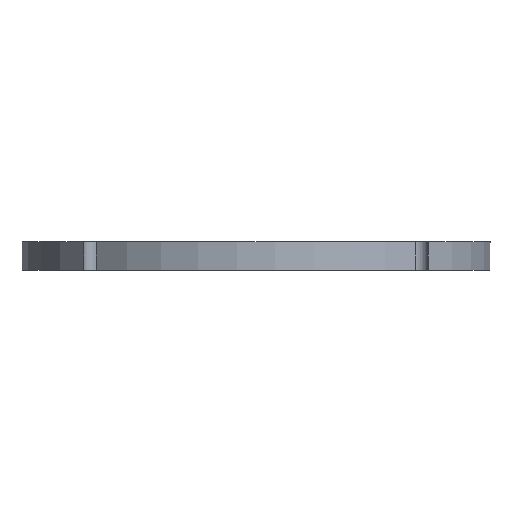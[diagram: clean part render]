
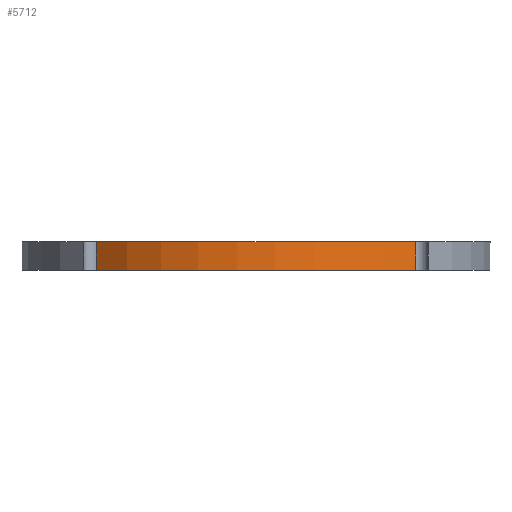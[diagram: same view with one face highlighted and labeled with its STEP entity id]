
A CAD part, front view. The second image highlights one B-rep face of the part: STEP entity #5712.
In plain terms, the highlighted cylindrical face has radius 33 mm (diameter 66 mm), a partial arc.
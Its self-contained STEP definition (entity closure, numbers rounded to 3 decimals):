
#71 = PLANE('',#72);
#72 = AXIS2_PLACEMENT_3D('',#73,#74,#75);
#73 = CARTESIAN_POINT('',(0.,0.,0.));
#74 = DIRECTION('',(0.,0.,1.));
#75 = DIRECTION('',(1.,0.,-0.));
#124 = PLANE('',#125);
#125 = AXIS2_PLACEMENT_3D('',#126,#127,#128);
#126 = CARTESIAN_POINT('',(0.,0.,4.));
#127 = DIRECTION('',(0.,0.,1.));
#128 = DIRECTION('',(1.,0.,-0.));
#283 = VERTEX_POINT('',#284);
#284 = CARTESIAN_POINT('',(-22.421,-24.214,4.));
#303 = CYLINDRICAL_SURFACE('',#304,1.6);
#304 = AXIS2_PLACEMENT_3D('',#305,#306,#307);
#305 = CARTESIAN_POINT('',(-22.627,-22.627,-1.));
#306 = DIRECTION('',(0.,0.,1.));
#307 = DIRECTION('',(1.,0.,-0.));
#315 = EDGE_CURVE('',#316,#283,#318,.T.);
#316 = VERTEX_POINT('',#317);
#317 = CARTESIAN_POINT('',(22.421,-24.214,4.));
#318 = SURFACE_CURVE('',#319,(#324,#335),.PCURVE_S1.);
#319 = CIRCLE('',#320,33.);
#320 = AXIS2_PLACEMENT_3D('',#321,#322,#323);
#321 = CARTESIAN_POINT('',(0.,0.,4.));
#322 = DIRECTION('',(0.,0.,-1.));
#323 = DIRECTION('',(0.734,0.679,0.));
#324 = PCURVE('',#124,#325);
#325 = DEFINITIONAL_REPRESENTATION('',(#326),#334);
#326 = ( BOUNDED_CURVE() B_SPLINE_CURVE(2,(#327,#328,#329,#330,#331,#332
,#333),.UNSPECIFIED.,.T.,.F.) B_SPLINE_CURVE_WITH_KNOTS((1,2,2,2,2,1),(
    -2.094,0.,2.094,4.189,6.283,
8.378),.UNSPECIFIED.) CURVE() GEOMETRIC_REPRESENTATION_ITEM() 
RATIONAL_B_SPLINE_CURVE((1.,0.5,1.,0.5,1.,0.5,1.)) REPRESENTATION_ITEM(
  '') );
#327 = CARTESIAN_POINT('',(24.214,22.421));
#328 = CARTESIAN_POINT('',(63.048,-19.519));
#329 = CARTESIAN_POINT('',(7.31,-32.18));
#330 = CARTESIAN_POINT('',(-48.428,-44.841));
#331 = CARTESIAN_POINT('',(-31.524,9.76));
#332 = CARTESIAN_POINT('',(-14.62,64.36));
#333 = CARTESIAN_POINT('',(24.214,22.421));
#334 = ( GEOMETRIC_REPRESENTATION_CONTEXT(2) 
PARAMETRIC_REPRESENTATION_CONTEXT() REPRESENTATION_CONTEXT('2D SPACE',''
  ) );
#335 = PCURVE('',#336,#341);
#336 = CYLINDRICAL_SURFACE('',#337,33.);
#337 = AXIS2_PLACEMENT_3D('',#338,#339,#340);
#338 = CARTESIAN_POINT('',(0.,0.,0.));
#339 = DIRECTION('',(0.,0.,1.));
#340 = DIRECTION('',(1.,0.,-0.));
#341 = DEFINITIONAL_REPRESENTATION('',(#342),#346);
#342 = LINE('',#343,#344);
#343 = CARTESIAN_POINT('',(7.03,4.));
#344 = VECTOR('',#345,1.);
#345 = DIRECTION('',(-1.,-0.));
#346 = ( GEOMETRIC_REPRESENTATION_CONTEXT(2) 
PARAMETRIC_REPRESENTATION_CONTEXT() REPRESENTATION_CONTEXT('2D SPACE',''
  ) );
#365 = CYLINDRICAL_SURFACE('',#366,1.6);
#366 = AXIS2_PLACEMENT_3D('',#367,#368,#369);
#367 = CARTESIAN_POINT('',(22.627,-22.627,-1.));
#368 = DIRECTION('',(0.,0.,1.));
#369 = DIRECTION('',(1.,0.,-0.));
#5539 = VERTEX_POINT('',#5540);
#5540 = CARTESIAN_POINT('',(-22.421,-24.214,0.));
#5562 = EDGE_CURVE('',#5539,#5563,#5565,.T.);
#5563 = VERTEX_POINT('',#5564);
#5564 = CARTESIAN_POINT('',(22.421,-24.214,0.));
#5565 = SURFACE_CURVE('',#5566,(#5571,#5578),.PCURVE_S1.);
#5566 = CIRCLE('',#5567,33.);
#5567 = AXIS2_PLACEMENT_3D('',#5568,#5569,#5570);
#5568 = CARTESIAN_POINT('',(0.,0.,0.));
#5569 = DIRECTION('',(0.,-0.,1.));
#5570 = DIRECTION('',(0.679,0.734,0.));
#5571 = PCURVE('',#71,#5572);
#5572 = DEFINITIONAL_REPRESENTATION('',(#5573),#5577);
#5573 = CIRCLE('',#5574,33.);
#5574 = AXIS2_PLACEMENT_2D('',#5575,#5576);
#5575 = CARTESIAN_POINT('',(0.,0.));
#5576 = DIRECTION('',(0.679,0.734));
#5577 = ( GEOMETRIC_REPRESENTATION_CONTEXT(2) 
PARAMETRIC_REPRESENTATION_CONTEXT() REPRESENTATION_CONTEXT('2D SPACE',''
  ) );
#5578 = PCURVE('',#336,#5579);
#5579 = DEFINITIONAL_REPRESENTATION('',(#5580),#5584);
#5580 = LINE('',#5581,#5582);
#5581 = CARTESIAN_POINT('',(0.824,0.));
#5582 = VECTOR('',#5583,1.);
#5583 = DIRECTION('',(1.,0.));
#5584 = ( GEOMETRIC_REPRESENTATION_CONTEXT(2) 
PARAMETRIC_REPRESENTATION_CONTEXT() REPRESENTATION_CONTEXT('2D SPACE',''
  ) );
#5693 = EDGE_CURVE('',#5563,#316,#5694,.T.);
#5694 = SURFACE_CURVE('',#5695,(#5699,#5705),.PCURVE_S1.);
#5695 = LINE('',#5696,#5697);
#5696 = CARTESIAN_POINT('',(22.421,-24.214,0.));
#5697 = VECTOR('',#5698,1.);
#5698 = DIRECTION('',(0.,0.,1.));
#5699 = PCURVE('',#365,#5700);
#5700 = DEFINITIONAL_REPRESENTATION('',(#5701),#5704);
#5701 = B_SPLINE_CURVE_WITH_KNOTS('',1,(#5702,#5703),.UNSPECIFIED.,.F.,
  .F.,(2,2),(0.,4.),.PIECEWISE_BEZIER_KNOTS.);
#5702 = CARTESIAN_POINT('',(4.583,1.));
#5703 = CARTESIAN_POINT('',(4.583,5.));
#5704 = ( GEOMETRIC_REPRESENTATION_CONTEXT(2) 
PARAMETRIC_REPRESENTATION_CONTEXT() REPRESENTATION_CONTEXT('2D SPACE',''
  ) );
#5705 = PCURVE('',#336,#5706);
#5706 = DEFINITIONAL_REPRESENTATION('',(#5707),#5710);
#5707 = B_SPLINE_CURVE_WITH_KNOTS('',1,(#5708,#5709),.UNSPECIFIED.,.F.,
  .F.,(2,2),(0.,4.),.PIECEWISE_BEZIER_KNOTS.);
#5708 = CARTESIAN_POINT('',(5.459,0.));
#5709 = CARTESIAN_POINT('',(5.459,4.));
#5710 = ( GEOMETRIC_REPRESENTATION_CONTEXT(2) 
PARAMETRIC_REPRESENTATION_CONTEXT() REPRESENTATION_CONTEXT('2D SPACE',''
  ) );
#5712 = ADVANCED_FACE('',(#5713),#336,.T.);
#5713 = FACE_BOUND('',#5714,.T.);
#5714 = EDGE_LOOP('',(#5715,#5734,#5735,#5736));
#5715 = ORIENTED_EDGE('',*,*,#5716,.F.);
#5716 = EDGE_CURVE('',#5539,#283,#5717,.T.);
#5717 = SURFACE_CURVE('',#5718,(#5722,#5728),.PCURVE_S1.);
#5718 = LINE('',#5719,#5720);
#5719 = CARTESIAN_POINT('',(-22.421,-24.214,0.));
#5720 = VECTOR('',#5721,1.);
#5721 = DIRECTION('',(0.,0.,1.));
#5722 = PCURVE('',#336,#5723);
#5723 = DEFINITIONAL_REPRESENTATION('',(#5724),#5727);
#5724 = B_SPLINE_CURVE_WITH_KNOTS('',1,(#5725,#5726),.UNSPECIFIED.,.F.,
  .F.,(2,2),(0.,4.),.PIECEWISE_BEZIER_KNOTS.);
#5725 = CARTESIAN_POINT('',(3.965,0.));
#5726 = CARTESIAN_POINT('',(3.965,4.));
#5727 = ( GEOMETRIC_REPRESENTATION_CONTEXT(2) 
PARAMETRIC_REPRESENTATION_CONTEXT() REPRESENTATION_CONTEXT('2D SPACE',''
  ) );
#5728 = PCURVE('',#303,#5729);
#5729 = DEFINITIONAL_REPRESENTATION('',(#5730),#5733);
#5730 = B_SPLINE_CURVE_WITH_KNOTS('',1,(#5731,#5732),.UNSPECIFIED.,.F.,
  .F.,(2,2),(0.,4.),.PIECEWISE_BEZIER_KNOTS.);
#5731 = CARTESIAN_POINT('',(4.842,1.));
#5732 = CARTESIAN_POINT('',(4.842,5.));
#5733 = ( GEOMETRIC_REPRESENTATION_CONTEXT(2) 
PARAMETRIC_REPRESENTATION_CONTEXT() REPRESENTATION_CONTEXT('2D SPACE',''
  ) );
#5734 = ORIENTED_EDGE('',*,*,#5562,.T.);
#5735 = ORIENTED_EDGE('',*,*,#5693,.T.);
#5736 = ORIENTED_EDGE('',*,*,#315,.T.);
